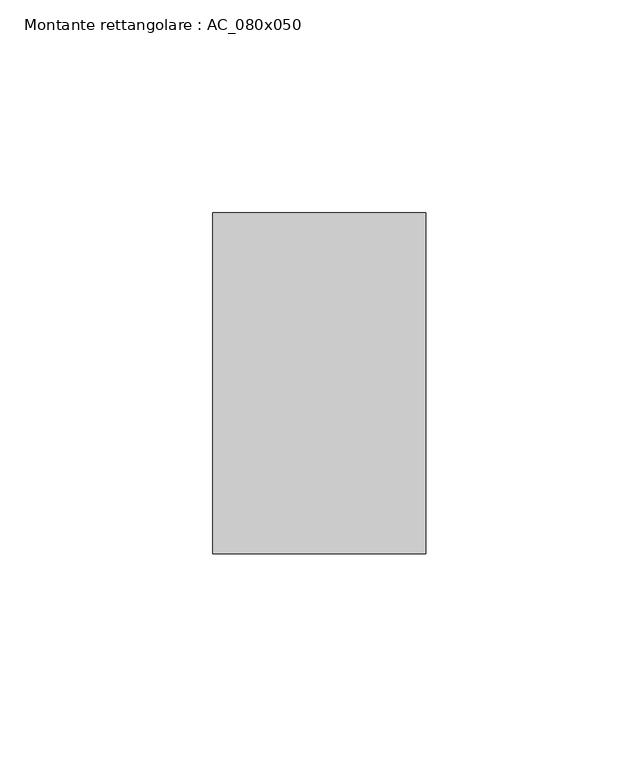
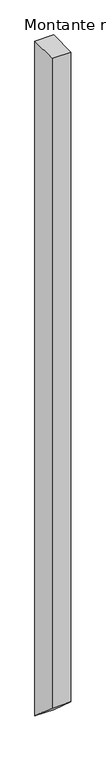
"""IFC4 building model written with IfcOpenShell, lengths in millimetres: member geometry, Montante rettangolare : AC_080x050."""

from ifc_helpers import new_model, si_unit, frame, origin, place, context, project, spatial, polyline, outline, extrude, source, transform, mapped, element, save


def montante_rettangolare_ac_080x050_b51b2937(model_context):
    return source(origin(), model_context, "Body", "SweptSolid", [
        extrude(outline(polyline([(-40.0, 0.0), (40.0, 0.0), (40.0, -1905.3890106), (-40.0, -1834.6109894), (-40.0, 0.0)])), frame((-50.0, 0.0, 0.0), z_axis=(1.0, 0.0, 0.0), x_axis=(0.0, 1.0, 0.0)), (0.0, 0.0, 1.0), 50.0),
    ])


if __name__ == "__main__":
    model = new_model("IFC4")
    model_context = context("Model", 3, world=origin())
    ifc_project = project(units=[si_unit("LENGTHUNIT", "METRE", prefix="MILLI")], contexts=[model_context])
    site = spatial("IfcSite", under=ifc_project)
    building = spatial("IfcBuilding", under=site)
    placement = place(None, origin())
    montante_rettangolare_ac_080x050_shape = montante_rettangolare_ac_080x050_b51b2937(model_context)
    element("IfcMember", 1, ObjectType="Montante rettangolare : AC_080x050", at=placement, inside=building, context=model_context, shape_type="MappedRepresentation", body=[
        mapped(montante_rettangolare_ac_080x050_shape, transform((0.0, 0.0, 0.0), x_axis=(1.0, 0.0, 0.0), y_axis=(0.0, 1.0, 0.0), z_axis=(0.0, 0.0, 1.0))),
    ])
    save(model, "model.ifc")
